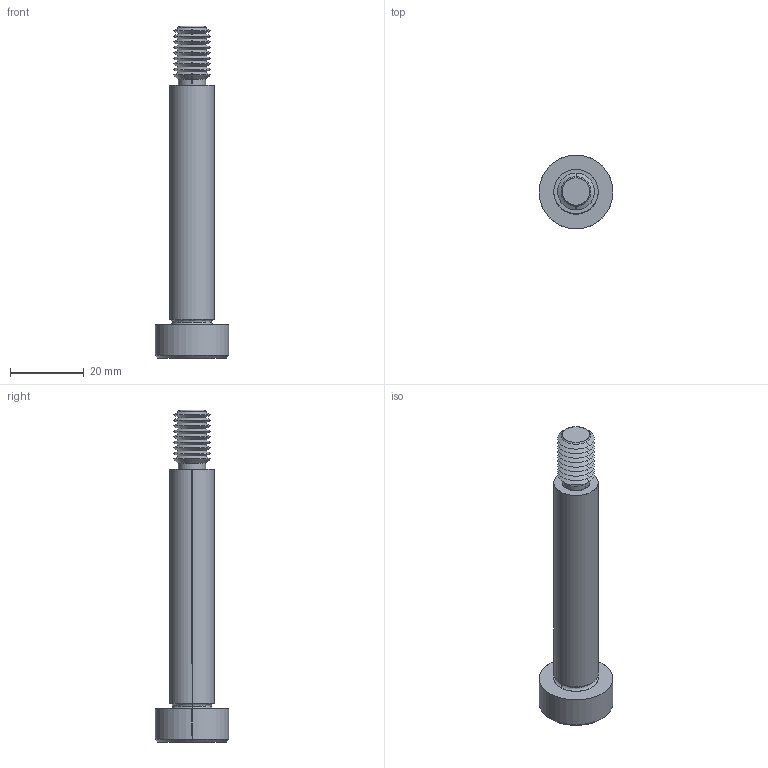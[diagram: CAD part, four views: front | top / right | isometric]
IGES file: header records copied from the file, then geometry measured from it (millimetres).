
Start section: SolidWorks IGES file using analytic representation for surfaces
Global section: file name: C:\Users\IanO\Documents\Temp Folder\GENERAL\SCREW REVISION\P0130_v2\P0130.T5_v2_20220106_IGES\P0130.120-065-T5.igs; native system: SolidWorks 2019; preprocessor: SolidWorks 2019; author: IanO; date: 220106.225025; units: millimetre
Bounding box: 20 x 20 x 90 mm (x, y, z)
Surface area: 4567.7 mm2 (no closed solid volume)
Topology: 0 solids, 0 shells, 76 faces, 564 edges, 562 vertices
Faces by surface type: revolution 56, bspline 20
